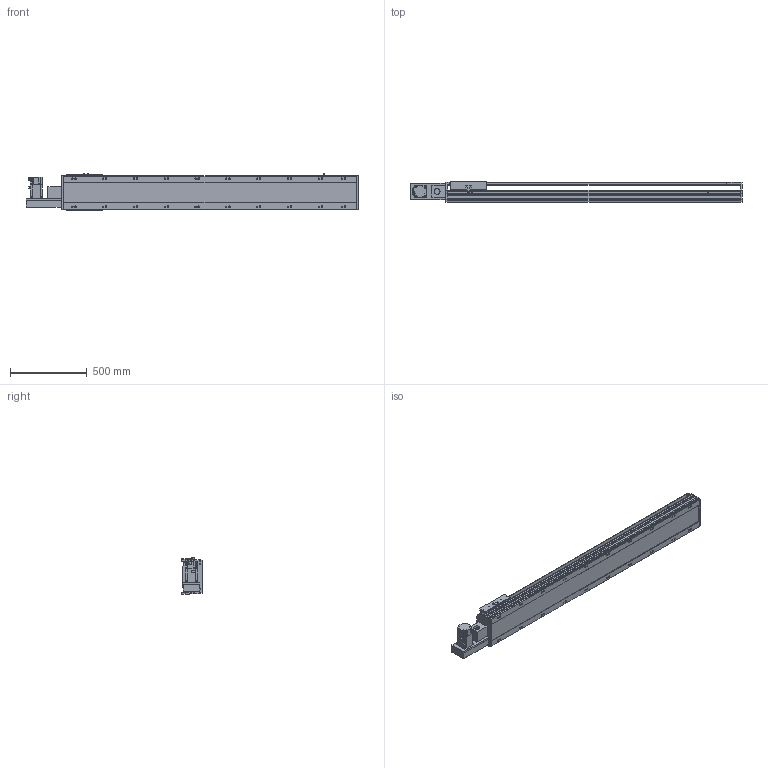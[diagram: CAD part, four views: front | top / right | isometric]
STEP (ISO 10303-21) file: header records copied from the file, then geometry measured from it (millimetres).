
FILE_DESCRIPTION(/* description */ ('STEP AP214'),/* implementation_level */ '2;1');
FILE_NAME(/* name */ 'PBS220-P40-S1550-L-T75-C1-N(0)',/* time_stamp */ '2022-06-11T09:56:21+02:00',/* author */ ('License CC BY-ND 4.0'),/* organization */ ('CADENAS'),/* preprocessor_version */ 'ST-DEVELOPER v18.102',/* originating_system */ 'PARTsolutions',/* authorisation */ ' ');
FILE_SCHEMA (('AUTOMOTIVE_DESIGN {1 0 10303 214 3 1 1}'));
Length unit declared in the file: millimetre
Products named in the file (7): PBS220-P40-S1550-L-T75-C1-N(0); PBS220_sensor; PBS220_plant; PBS220_sliser; T75-p1; PBS220T-L_motors; PBS220-S1550()_body
Assembly tree (8 placements, depth 2):
  PBS220-P40-S1550-L-T75-C1-N(0)
    PBS220_sensor  x3
    PBS220_plant
    PBS220_sliser
    T75-p1
    PBS220T-L_motors
    PBS220-S1550()_body
Bounding box: 2156 x 134 x 238.5 mm (x, y, z)
Volume: 28865772.2 mm3; surface area: 2730220.9 mm2
Topology: 8 solids, 8 shells, 938 faces, 2452 edges, 1594 vertices
Faces by surface type: plane 606, cylinder 288, cone 44
Full cylindrical faces by diameter (mm): 2.013 x4, 4.5 x14, 4.917 x4, 6 x7, 6.647 x8, 8 x10, 8.376 x20, 8.5 x20, 10 x6, 14 x20, 38 x2, 40 x1, 70 x1
Entity records: 26253 total; most frequent: CARTESIAN_POINT 4624, DIRECTION 4563, ORIENTED_EDGE 4178, EDGE_CURVE 2089, AXIS2_PLACEMENT_3D 1607, VERTEX_POINT 1448, LINE 1349, VECTOR 1349
